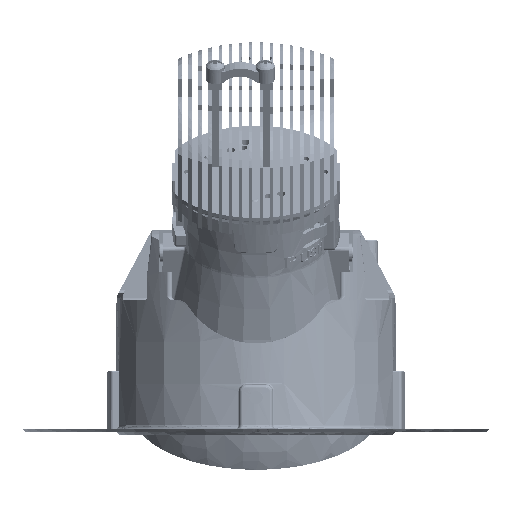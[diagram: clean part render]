
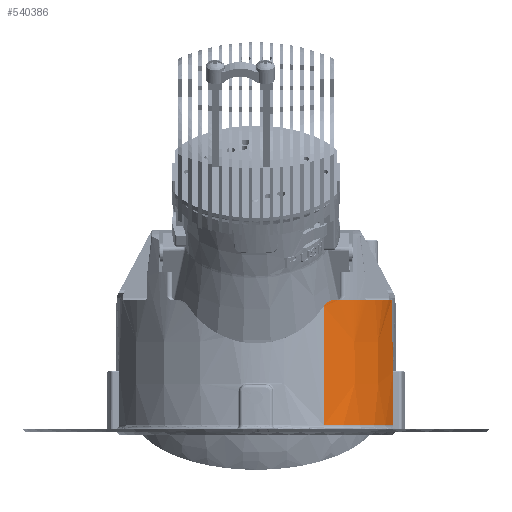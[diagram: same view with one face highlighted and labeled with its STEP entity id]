
A CAD part, front view. The second image highlights one B-rep face of the part: STEP entity #540386.
In plain terms, the highlighted conical face has half-angle 0.5 degrees and reference radius 42.323 mm.
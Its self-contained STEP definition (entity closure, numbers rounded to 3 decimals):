
#534770=CARTESIAN_POINT('Vertex',(20.22,-37.013,37.272)) ;
#534774=CARTESIAN_POINT('Control Point',(20.22,-37.013,37.272)) ;
#534775=CARTESIAN_POINT('Control Point',(20.236,-37.005,37.296)) ;
#534776=CARTESIAN_POINT('Control Point',(20.251,-36.996,37.319)) ;
#534777=CARTESIAN_POINT('Control Point',(20.266,-36.988,37.343)) ;
#534778=CARTESIAN_POINT('Vertex',(20.266,-36.988,37.343)) ;
#536855=CARTESIAN_POINT('Line Origine',(2102.007,-3847.699,-497535.63)) ;
#536859=CARTESIAN_POINT('Vertex',(20.369,-37.286,1.691)) ;
#540252=CARTESIAN_POINT('Axis2P3D Location',(0.,0.,20.446)) ;
#540258=CARTESIAN_POINT('Control Point',(40.961,-11.285,1.691)) ;
#540259=CARTESIAN_POINT('Control Point',(40.939,-11.193,6.967)) ;
#540260=CARTESIAN_POINT('Control Point',(40.916,-11.101,12.24)) ;
#540261=CARTESIAN_POINT('Control Point',(40.893,-11.009,17.509)) ;
#540262=CARTESIAN_POINT('Vertex',(40.961,-11.285,1.691)) ;
#540264=CARTESIAN_POINT('Vertex',(40.893,-11.009,17.509)) ;
#540268=CARTESIAN_POINT('Control Point',(40.893,-11.009,17.509)) ;
#540269=CARTESIAN_POINT('Control Point',(40.893,-11.008,17.548)) ;
#540270=CARTESIAN_POINT('Control Point',(40.894,-11.002,17.587)) ;
#540271=CARTESIAN_POINT('Control Point',(40.896,-10.993,17.623)) ;
#540272=CARTESIAN_POINT('Vertex',(40.896,-10.993,17.623)) ;
#540276=CARTESIAN_POINT('Control Point',(40.896,-10.993,17.623)) ;
#540277=CARTESIAN_POINT('Control Point',(40.894,-10.996,17.748)) ;
#540278=CARTESIAN_POINT('Control Point',(40.893,-10.998,17.874)) ;
#540279=CARTESIAN_POINT('Control Point',(40.891,-11.,18.)) ;
#540280=CARTESIAN_POINT('Vertex',(40.891,-11.,18.)) ;
#540284=CARTESIAN_POINT('Control Point',(40.891,-11.,18.)) ;
#540285=CARTESIAN_POINT('Control Point',(40.794,-11.124,25.081)) ;
#540286=CARTESIAN_POINT('Control Point',(40.696,-11.247,32.148)) ;
#540287=CARTESIAN_POINT('Control Point',(40.598,-11.37,39.2)) ;
#540288=CARTESIAN_POINT('Vertex',(40.598,-11.37,39.2)) ;
#540291=CARTESIAN_POINT('Axis2P3D Location',(0.,0.,39.2)) ;
#540295=CARTESIAN_POINT('Vertex',(40.416,-12.,39.2)) ;
#540298=CARTESIAN_POINT('Axis2P3D Location',(0.,0.,39.2)) ;
#540302=CARTESIAN_POINT('Vertex',(39.767,-14.,39.2)) ;
#540305=CARTESIAN_POINT('Axis2P3D Location',(0.,0.,39.2)) ;
#540309=CARTESIAN_POINT('Vertex',(39.588,-14.5,39.2)) ;
#540312=CARTESIAN_POINT('Axis2P3D Location',(0.,0.,39.2)) ;
#540316=CARTESIAN_POINT('Vertex',(32.979,-26.265,39.2)) ;
#540319=CARTESIAN_POINT('Axis2P3D Location',(0.,0.,39.2)) ;
#540323=CARTESIAN_POINT('Vertex',(32.574,-26.765,39.2)) ;
#540326=CARTESIAN_POINT('Axis2P3D Location',(0.,0.,39.2)) ;
#540330=CARTESIAN_POINT('Vertex',(30.286,-29.329,39.2)) ;
#540333=CARTESIAN_POINT('Axis2P3D Location',(0.,0.,39.2)) ;
#540337=CARTESIAN_POINT('Vertex',(26.632,-32.683,39.2)) ;
#540340=CARTESIAN_POINT('Axis2P3D Location',(0.,0.,39.2)) ;
#540344=CARTESIAN_POINT('Vertex',(25.25,-33.762,39.2)) ;
#540347=CARTESIAN_POINT('Axis2P3D Location',(0.,0.,39.2)) ;
#540351=CARTESIAN_POINT('Vertex',(23.643,-34.906,39.2)) ;
#540355=CARTESIAN_POINT('Control Point',(23.643,-34.906,39.2)) ;
#540356=CARTESIAN_POINT('Control Point',(22.939,-35.383,39.2)) ;
#540357=CARTESIAN_POINT('Control Point',(22.228,-35.839,39.046)) ;
#540358=CARTESIAN_POINT('Control Point',(21.534,-36.265,38.729)) ;
#540359=CARTESIAN_POINT('Control Point',(20.819,-36.676,38.216)) ;
#540360=CARTESIAN_POINT('Control Point',(20.266,-36.988,37.343)) ;
#540362=CARTESIAN_POINT('Axis2P3D Location',(0.,0.,1.691)) ;
#536856=DIRECTION('Vector Direction',(0.004,-0.008,-1.)) ;
#540253=DIRECTION('Axis2P3D Direction',(0.,0.,-1.)) ;
#540254=DIRECTION('Axis2P3D XDirection',(-0.479,0.878,0.)) ;
#540292=DIRECTION('Axis2P3D Direction',(0.,0.,-1.)) ;
#540299=DIRECTION('Axis2P3D Direction',(0.,0.,-1.)) ;
#540306=DIRECTION('Axis2P3D Direction',(0.,0.,-1.)) ;
#540313=DIRECTION('Axis2P3D Direction',(0.,0.,-1.)) ;
#540320=DIRECTION('Axis2P3D Direction',(0.,0.,-1.)) ;
#540327=DIRECTION('Axis2P3D Direction',(0.,0.,-1.)) ;
#540334=DIRECTION('Axis2P3D Direction',(0.,0.,-1.)) ;
#540341=DIRECTION('Axis2P3D Direction',(0.,0.,-1.)) ;
#540348=DIRECTION('Axis2P3D Direction',(0.,0.,-1.)) ;
#540363=DIRECTION('Axis2P3D Direction',(0.,0.,-1.)) ;
#540255=AXIS2_PLACEMENT_3D('Cone Axis2P3D',#540252,#540253,#540254) ;
#540293=AXIS2_PLACEMENT_3D('Circle Axis2P3D',#540291,#540292,$) ;
#540300=AXIS2_PLACEMENT_3D('Circle Axis2P3D',#540298,#540299,$) ;
#540307=AXIS2_PLACEMENT_3D('Circle Axis2P3D',#540305,#540306,$) ;
#540314=AXIS2_PLACEMENT_3D('Circle Axis2P3D',#540312,#540313,$) ;
#540321=AXIS2_PLACEMENT_3D('Circle Axis2P3D',#540319,#540320,$) ;
#540328=AXIS2_PLACEMENT_3D('Circle Axis2P3D',#540326,#540327,$) ;
#540335=AXIS2_PLACEMENT_3D('Circle Axis2P3D',#540333,#540334,$) ;
#540342=AXIS2_PLACEMENT_3D('Circle Axis2P3D',#540340,#540341,$) ;
#540349=AXIS2_PLACEMENT_3D('Circle Axis2P3D',#540347,#540348,$) ;
#540364=AXIS2_PLACEMENT_3D('Circle Axis2P3D',#540362,#540363,$) ;
#540368=ORIENTED_EDGE('',*,*,#540266,.T.) ;
#540369=ORIENTED_EDGE('',*,*,#540274,.T.) ;
#540370=ORIENTED_EDGE('',*,*,#540282,.T.) ;
#540371=ORIENTED_EDGE('',*,*,#540290,.T.) ;
#540372=ORIENTED_EDGE('',*,*,#540297,.T.) ;
#540373=ORIENTED_EDGE('',*,*,#540304,.T.) ;
#540374=ORIENTED_EDGE('',*,*,#540311,.F.) ;
#540375=ORIENTED_EDGE('',*,*,#540318,.T.) ;
#540376=ORIENTED_EDGE('',*,*,#540325,.F.) ;
#540377=ORIENTED_EDGE('',*,*,#540332,.T.) ;
#540378=ORIENTED_EDGE('',*,*,#540339,.T.) ;
#540379=ORIENTED_EDGE('',*,*,#540346,.F.) ;
#540380=ORIENTED_EDGE('',*,*,#540353,.T.) ;
#540381=ORIENTED_EDGE('',*,*,#540361,.T.) ;
#540382=ORIENTED_EDGE('',*,*,#534780,.F.) ;
#540383=ORIENTED_EDGE('',*,*,#536861,.F.) ;
#540384=ORIENTED_EDGE('',*,*,#540366,.T.) ;
#536857=VECTOR('Line Direction',#536856,1.) ;
#540386=ADVANCED_FACE('X.UP1CK.1\\290\\MANIFOLD_SOLID_BREP #352620',(#540385),#540256,.T.) ;
#534773=B_SPLINE_CURVE_WITH_KNOTS('',3,(#534774,#534775,#534776,#534777),.UNSPECIFIED.,.F.,.U.,(4,4),(0.,0.124),.UNSPECIFIED.) ;
#540257=B_SPLINE_CURVE_WITH_KNOTS('',3,(#540258,#540259,#540260,#540261),.UNSPECIFIED.,.F.,.U.,(4,4),(0.,22.379),.UNSPECIFIED.) ;
#540267=B_SPLINE_CURVE_WITH_KNOTS('',3,(#540268,#540269,#540270,#540271),.UNSPECIFIED.,.F.,.U.,(4,4),(0.,0.166),.UNSPECIFIED.) ;
#540275=B_SPLINE_CURVE_WITH_KNOTS('',3,(#540276,#540277,#540278,#540279),.UNSPECIFIED.,.F.,.U.,(4,4),(0.,0.534),.UNSPECIFIED.) ;
#540283=B_SPLINE_CURVE_WITH_KNOTS('',3,(#540284,#540285,#540286,#540287),.UNSPECIFIED.,.F.,.U.,(4,4),(0.,30.003),.UNSPECIFIED.) ;
#540354=B_SPLINE_CURVE_WITH_KNOTS('',5,(#540355,#540356,#540357,#540358,#540359,#540360),.UNSPECIFIED.,.F.,.U.,(6,6),(0.,10.749),.UNSPECIFIED.) ;
#540294=CIRCLE('generated circle',#540293,42.16) ;
#540301=CIRCLE('generated circle',#540300,42.16) ;
#540308=CIRCLE('generated circle',#540307,42.16) ;
#540315=CIRCLE('generated circle',#540314,42.16) ;
#540322=CIRCLE('generated circle',#540321,42.16) ;
#540329=CIRCLE('generated circle',#540328,42.16) ;
#540336=CIRCLE('generated circle',#540335,42.16) ;
#540343=CIRCLE('generated circle',#540342,42.16) ;
#540350=CIRCLE('generated circle',#540349,42.16) ;
#540365=CIRCLE('generated circle',#540364,42.487) ;
#540256=CONICAL_SURFACE('Cone',#540255,42.323,0.009) ;
#534780=EDGE_CURVE('',#534771,#534779,#534773,.T.) ;
#536861=EDGE_CURVE('',#536860,#534771,#536858,.F.) ;
#540266=EDGE_CURVE('',#540263,#540265,#540257,.T.) ;
#540274=EDGE_CURVE('',#540265,#540273,#540267,.T.) ;
#540282=EDGE_CURVE('',#540273,#540281,#540275,.T.) ;
#540290=EDGE_CURVE('',#540281,#540289,#540283,.T.) ;
#540297=EDGE_CURVE('',#540289,#540296,#540294,.T.) ;
#540304=EDGE_CURVE('',#540296,#540303,#540301,.T.) ;
#540311=EDGE_CURVE('',#540310,#540303,#540308,.F.) ;
#540318=EDGE_CURVE('',#540310,#540317,#540315,.T.) ;
#540325=EDGE_CURVE('',#540324,#540317,#540322,.F.) ;
#540332=EDGE_CURVE('',#540324,#540331,#540329,.T.) ;
#540339=EDGE_CURVE('',#540331,#540338,#540336,.T.) ;
#540346=EDGE_CURVE('',#540345,#540338,#540343,.F.) ;
#540353=EDGE_CURVE('',#540345,#540352,#540350,.T.) ;
#540361=EDGE_CURVE('',#540352,#534779,#540354,.T.) ;
#540366=EDGE_CURVE('',#536860,#540263,#540365,.F.) ;
#540367=EDGE_LOOP('',(#540368,#540369,#540370,#540371,#540372,#540373,#540374,#540375,#540376,#540377,#540378,#540379,#540380,#540381,#540382,#540383,#540384)) ;
#540385=FACE_OUTER_BOUND('',#540367,.T.) ;
#536858=LINE('Line',#536855,#536857) ;
#534771=VERTEX_POINT('',#534770) ;
#534779=VERTEX_POINT('',#534778) ;
#536860=VERTEX_POINT('',#536859) ;
#540263=VERTEX_POINT('',#540262) ;
#540265=VERTEX_POINT('',#540264) ;
#540273=VERTEX_POINT('',#540272) ;
#540281=VERTEX_POINT('',#540280) ;
#540289=VERTEX_POINT('',#540288) ;
#540296=VERTEX_POINT('',#540295) ;
#540303=VERTEX_POINT('',#540302) ;
#540310=VERTEX_POINT('',#540309) ;
#540317=VERTEX_POINT('',#540316) ;
#540324=VERTEX_POINT('',#540323) ;
#540331=VERTEX_POINT('',#540330) ;
#540338=VERTEX_POINT('',#540337) ;
#540345=VERTEX_POINT('',#540344) ;
#540352=VERTEX_POINT('',#540351) ;
